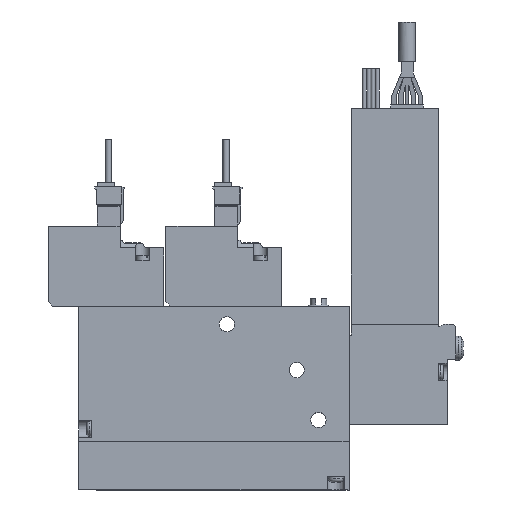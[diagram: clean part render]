
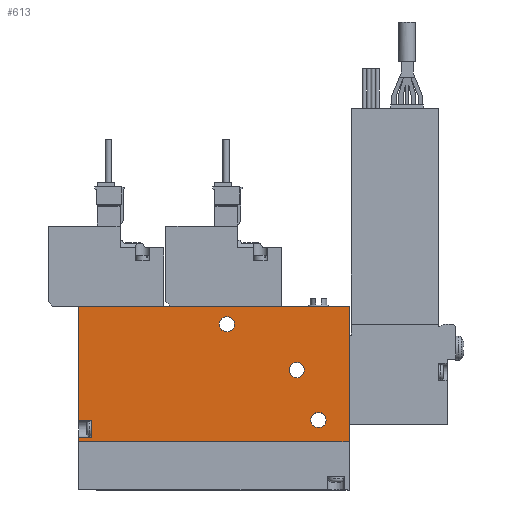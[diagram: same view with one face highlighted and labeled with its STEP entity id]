
A CAD part, top view. The second image highlights one B-rep face of the part: STEP entity #613.
In plain terms, the highlighted planar face has unit normal (0, 0, 1).
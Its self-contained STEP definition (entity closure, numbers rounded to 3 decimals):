
#613=ADVANCED_FACE('',(#1315,#1316,#1317,#1318),#1319,.T.);
#1315=FACE_OUTER_BOUND('',#2136,.T.);
#1316=FACE_BOUND('',#2137,.T.);
#1317=FACE_BOUND('',#2138,.T.);
#1318=FACE_BOUND('',#2139,.T.);
#1319=PLANE('',#2140);
#2136=EDGE_LOOP('',(#4524,#4525,#4526,#4527,#4528,#4529,#4530,#4531));
#2137=EDGE_LOOP('',(#4532));
#2138=EDGE_LOOP('',(#4533));
#2139=EDGE_LOOP('',(#4534));
#2140=AXIS2_PLACEMENT_3D('',#4535,#4536,#4537);
#4524=ORIENTED_EDGE('',*,*,#5833,.T.);
#4525=ORIENTED_EDGE('',*,*,#5837,.F.);
#4526=ORIENTED_EDGE('',*,*,#5850,.T.);
#4527=ORIENTED_EDGE('',*,*,#5845,.T.);
#4528=ORIENTED_EDGE('',*,*,#5830,.T.);
#4529=ORIENTED_EDGE('',*,*,#5847,.T.);
#4530=ORIENTED_EDGE('',*,*,#5747,.T.);
#4531=ORIENTED_EDGE('',*,*,#5844,.T.);
#4532=ORIENTED_EDGE('',*,*,#5851,.F.);
#4533=ORIENTED_EDGE('',*,*,#5758,.F.);
#4534=ORIENTED_EDGE('',*,*,#5852,.F.);
#4535=CARTESIAN_POINT('',(0.0,0.0,5.0));
#4536=DIRECTION('',(0.0,0.0,1.0));
#4537=DIRECTION('',(1.0,0.0,0.0));
#5747=EDGE_CURVE('',#7026,#7024,#7027,.T.);
#5758=EDGE_CURVE('',#7047,#7047,#7048,.T.);
#5830=EDGE_CURVE('',#7171,#7169,#7172,.T.);
#5833=EDGE_CURVE('',#7176,#7174,#7177,.T.);
#5837=EDGE_CURVE('',#7180,#7174,#7182,.T.);
#5844=EDGE_CURVE('',#7024,#7176,#7193,.T.);
#5845=EDGE_CURVE('',#7194,#7171,#7195,.T.);
#5847=EDGE_CURVE('',#7169,#7026,#7197,.T.);
#5850=EDGE_CURVE('',#7180,#7194,#7200,.T.);
#5851=EDGE_CURVE('',#7201,#7201,#7202,.T.);
#5852=EDGE_CURVE('',#7203,#7203,#7204,.T.);
#7024=VERTEX_POINT('',#9186);
#7026=VERTEX_POINT('',#9189);
#7027=LINE('',#9190,#9191);
#7047=VERTEX_POINT('',#9216);
#7048=CIRCLE('',#9217,1.75);
#7169=VERTEX_POINT('',#9434);
#7171=VERTEX_POINT('',#9437);
#7172=LINE('',#9438,#9439);
#7174=VERTEX_POINT('',#9442);
#7176=VERTEX_POINT('',#9445);
#7177=LINE('',#9446,#9447);
#7180=VERTEX_POINT('',#9451);
#7182=LINE('',#9454,#9455);
#7193=LINE('',#9470,#9471);
#7194=VERTEX_POINT('',#9472);
#7195=LINE('',#9473,#9474);
#7197=LINE('',#9477,#9478);
#7200=LINE('',#9482,#9483);
#7201=VERTEX_POINT('',#9484);
#7202=CIRCLE('',#9485,1.75);
#7203=VERTEX_POINT('',#9486);
#7204=CIRCLE('',#9487,1.75);
#9186=CARTESIAN_POINT('',(62.0,31.0,5.0));
#9189=CARTESIAN_POINT('',(62.0,0.0,5.0));
#9190=CARTESIAN_POINT('',(62.0,0.0,5.0));
#9191=VECTOR('',#10716,1.0);
#9216=CARTESIAN_POINT('',(51.75,16.5,5.0));
#9217=AXIS2_PLACEMENT_3D('',#10737,#10738,#10739);
#9434=CARTESIAN_POINT('',(0.0,0.0,5.0));
#9437=CARTESIAN_POINT('',(0.0,1.0,5.0));
#9438=CARTESIAN_POINT('',(0.0,31.0,5.0));
#9439=VECTOR('',#10856,1.0);
#9442=CARTESIAN_POINT('',(0.0,5.0,5.0));
#9445=CARTESIAN_POINT('',(0.0,31.0,5.0));
#9446=CARTESIAN_POINT('',(0.0,31.0,5.0));
#9447=VECTOR('',#10859,1.0);
#9451=CARTESIAN_POINT('',(3.0,5.0,5.0));
#9454=CARTESIAN_POINT('',(3.0,5.0,5.0));
#9455=VECTOR('',#10865,1.0);
#9470=CARTESIAN_POINT('',(62.0,31.0,5.0));
#9471=VECTOR('',#10876,1.0);
#9472=CARTESIAN_POINT('',(3.0,1.0,5.0));
#9473=CARTESIAN_POINT('',(3.0,1.0,5.0));
#9474=VECTOR('',#10877,1.0);
#9477=CARTESIAN_POINT('',(0.0,0.0,5.0));
#9478=VECTOR('',#10879,1.0);
#9482=CARTESIAN_POINT('',(3.0,5.0,5.0));
#9483=VECTOR('',#10884,1.0);
#9484=CARTESIAN_POINT('',(56.75,5.0,5.0));
#9485=AXIS2_PLACEMENT_3D('',#10885,#10886,#10887);
#9486=CARTESIAN_POINT('',(35.75,27.0,5.0));
#9487=AXIS2_PLACEMENT_3D('',#10888,#10889,#10890);
#10716=DIRECTION('',(0.0,1.0,0.0));
#10737=CARTESIAN_POINT('',(50.0,16.5,5.0));
#10738=DIRECTION('',(0.0,0.0,1.0));
#10739=DIRECTION('',(1.0,0.0,0.0));
#10856=DIRECTION('',(0.0,-1.0,0.0));
#10859=DIRECTION('',(0.0,-1.0,0.0));
#10865=DIRECTION('',(-1.0,0.0,0.0));
#10876=DIRECTION('',(-1.0,0.0,0.0));
#10877=DIRECTION('',(-1.0,0.0,0.0));
#10879=DIRECTION('',(1.0,0.0,0.0));
#10884=DIRECTION('',(0.0,-1.0,0.0));
#10885=CARTESIAN_POINT('',(55.0,5.0,5.0));
#10886=DIRECTION('',(0.0,0.0,1.0));
#10887=DIRECTION('',(1.0,0.0,0.0));
#10888=CARTESIAN_POINT('',(34.0,27.0,5.0));
#10889=DIRECTION('',(0.0,0.0,1.0));
#10890=DIRECTION('',(1.0,0.0,0.0));
